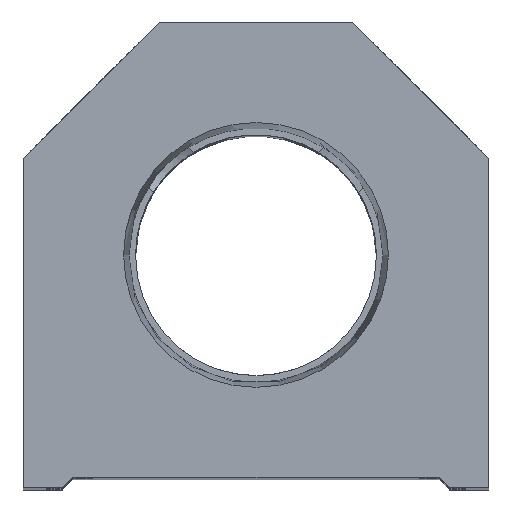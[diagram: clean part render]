
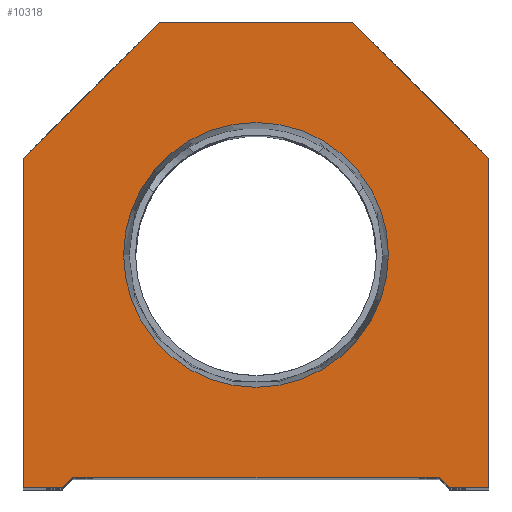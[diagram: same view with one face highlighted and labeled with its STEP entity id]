
A CAD part, top view. The second image highlights one B-rep face of the part: STEP entity #10318.
In plain terms, the highlighted planar face has unit normal (0, 0, 1).
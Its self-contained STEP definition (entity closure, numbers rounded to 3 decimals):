
#341 = DIRECTION ( 'NONE',  ( 1., 0., 0. ) ) ;
#595 = FACE_BOUND ( 'NONE', #12300, .T. ) ;
#606 = CARTESIAN_POINT ( 'NONE',  ( -22.25, 0., 0. ) ) ;
#615 = AXIS2_PLACEMENT_3D ( 'NONE', #9363, #10745, #8400 ) ;
#703 = VERTEX_POINT ( 'NONE', #14268 ) ;
#852 = CARTESIAN_POINT ( 'NONE',  ( -22.25, 31.5, 0. ) ) ;
#1109 = CARTESIAN_POINT ( 'NONE',  ( -17.5, 0., 0. ) ) ;
#1124 = VERTEX_POINT ( 'NONE', #1278 ) ;
#1189 = LINE ( 'NONE', #1109, #6483 ) ;
#1209 = ORIENTED_EDGE ( 'NONE', *, *, #7850, .T. ) ;
#1278 = CARTESIAN_POINT ( 'NONE',  ( -22.25, 0., 0. ) ) ;
#1451 = LINE ( 'NONE', #12721, #1650 ) ;
#1483 = CARTESIAN_POINT ( 'NONE',  ( 22.25, 0., 0. ) ) ;
#1518 = CARTESIAN_POINT ( 'NONE',  ( 17.5, 0., 0. ) ) ;
#1556 = DIRECTION ( 'NONE',  ( 1., 0., 0. ) ) ;
#1569 = EDGE_CURVE ( 'NONE', #10668, #703, #11191, .T. ) ;
#1650 = VECTOR ( 'NONE', #7331, 1000. ) ;
#1702 = CARTESIAN_POINT ( 'NONE',  ( 0., 22.25, 0. ) ) ;
#1937 = EDGE_CURVE ( 'NONE', #10751, #11956, #5445, .T. ) ;
#1974 = DIRECTION ( 'NONE',  ( -0.707, 0.707, 0. ) ) ;
#2422 = CARTESIAN_POINT ( 'NONE',  ( 18.5, 0., 0. ) ) ;
#2563 = DIRECTION ( 'NONE',  ( 0.707, 0.707, 0. ) ) ;
#2686 = VECTOR ( 'NONE', #9468, 1000. ) ;
#2759 = ORIENTED_EDGE ( 'NONE', *, *, #1569, .T. ) ;
#2771 = CARTESIAN_POINT ( 'NONE',  ( -17.5, 1., 0. ) ) ;
#2816 = DIRECTION ( 'NONE',  ( 0., 0., 1. ) ) ;
#2820 = VECTOR ( 'NONE', #341, 1000. ) ;
#2863 = EDGE_CURVE ( 'NONE', #9670, #10385, #6899, .T. ) ;
#3039 = CARTESIAN_POINT ( 'NONE',  ( 17.5, 1., 0. ) ) ;
#3234 = VECTOR ( 'NONE', #5608, 1000. ) ;
#3510 = ORIENTED_EDGE ( 'NONE', *, *, #13084, .T. ) ;
#3719 = VERTEX_POINT ( 'NONE', #9332 ) ;
#4142 = CIRCLE ( 'NONE', #4620, 12.647 ) ;
#4425 = CARTESIAN_POINT ( 'NONE',  ( 9.25, 44.5, 0. ) ) ;
#4620 = AXIS2_PLACEMENT_3D ( 'NONE', #1702, #2816, #1556 ) ;
#4866 = PLANE ( 'NONE',  #615 ) ;
#5067 = ORIENTED_EDGE ( 'NONE', *, *, #6592, .T. ) ;
#5076 = DIRECTION ( 'NONE',  ( 0., 1., 0. ) ) ;
#5387 = VECTOR ( 'NONE', #1974, 1000. ) ;
#5406 = VECTOR ( 'NONE', #5076, 1000. ) ;
#5445 = LINE ( 'NONE', #9936, #12905 ) ;
#5608 = DIRECTION ( 'NONE',  ( -1., 0., 0. ) ) ;
#5676 = DIRECTION ( 'NONE',  ( 1., 0., 0. ) ) ;
#5869 = CARTESIAN_POINT ( 'NONE',  ( -9.25, 9.25, 0. ) ) ;
#5929 = ORIENTED_EDGE ( 'NONE', *, *, #2863, .T. ) ;
#5996 = EDGE_CURVE ( 'NONE', #9671, #10471, #6550, .T. ) ;
#6042 = ORIENTED_EDGE ( 'NONE', *, *, #8292, .T. ) ;
#6116 = DIRECTION ( 'NONE',  ( 0., 0., 1. ) ) ;
#6182 = CARTESIAN_POINT ( 'NONE',  ( 0., 22.25, 0. ) ) ;
#6483 = VECTOR ( 'NONE', #5676, 1000. ) ;
#6550 = CIRCLE ( 'NONE', #8438, 12.647 ) ;
#6592 = EDGE_CURVE ( 'NONE', #11956, #13979, #8221, .T. ) ;
#6689 = CARTESIAN_POINT ( 'NONE',  ( -18.5, 0., 0. ) ) ;
#6899 = LINE ( 'NONE', #5869, #13386 ) ;
#7023 = CARTESIAN_POINT ( 'NONE',  ( 22.25, 0., 0. ) ) ;
#7094 = LINE ( 'NONE', #606, #12581 ) ;
#7150 = FACE_OUTER_BOUND ( 'NONE', #11612, .T. ) ;
#7302 = CARTESIAN_POINT ( 'NONE',  ( -17.5, 1., 0. ) ) ;
#7327 = EDGE_CURVE ( 'NONE', #703, #13302, #1451, .T. ) ;
#7331 = DIRECTION ( 'NONE',  ( -0.707, -0.707, 0. ) ) ;
#7850 = EDGE_CURVE ( 'NONE', #10385, #10751, #11534, .T. ) ;
#8221 = LINE ( 'NONE', #1518, #2820 ) ;
#8275 = DIRECTION ( 'NONE',  ( 0., -1., 0. ) ) ;
#8292 = EDGE_CURVE ( 'NONE', #13302, #1124, #7094, .T. ) ;
#8400 = DIRECTION ( 'NONE',  ( 1., 0., 0. ) ) ;
#8438 = AXIS2_PLACEMENT_3D ( 'NONE', #6182, #6116, #12972 ) ;
#8831 = CARTESIAN_POINT ( 'NONE',  ( 12.647, 22.25, 0. ) ) ;
#8835 = ORIENTED_EDGE ( 'NONE', *, *, #5996, .F. ) ;
#9048 = DIRECTION ( 'NONE',  ( 0.707, -0.707, 0. ) ) ;
#9284 = ORIENTED_EDGE ( 'NONE', *, *, #11727, .T. ) ;
#9332 = CARTESIAN_POINT ( 'NONE',  ( 22.25, 31.5, 0. ) ) ;
#9354 = LINE ( 'NONE', #1483, #5406 ) ;
#9363 = CARTESIAN_POINT ( 'NONE',  ( 0., 0., 0. ) ) ;
#9468 = DIRECTION ( 'NONE',  ( 1., 0., 0. ) ) ;
#9670 = VERTEX_POINT ( 'NONE', #6689 ) ;
#9671 = VERTEX_POINT ( 'NONE', #12295 ) ;
#9936 = CARTESIAN_POINT ( 'NONE',  ( 9.25, 9.25, 0. ) ) ;
#9978 = ORIENTED_EDGE ( 'NONE', *, *, #1937, .T. ) ;
#10318 = ADVANCED_FACE ( 'NONE', ( #595, #7150 ), #4866, .T. ) ;
#10371 = EDGE_CURVE ( 'NONE', #10471, #9671, #4142, .T. ) ;
#10385 = VERTEX_POINT ( 'NONE', #7302 ) ;
#10471 = VERTEX_POINT ( 'NONE', #8831 ) ;
#10668 = VERTEX_POINT ( 'NONE', #12521 ) ;
#10745 = DIRECTION ( 'NONE',  ( 0., 0., 1. ) ) ;
#10751 = VERTEX_POINT ( 'NONE', #3039 ) ;
#10794 = ORIENTED_EDGE ( 'NONE', *, *, #10371, .F. ) ;
#10862 = EDGE_CURVE ( 'NONE', #1124, #9670, #1189, .T. ) ;
#11191 = LINE ( 'NONE', #4425, #3234 ) ;
#11534 = LINE ( 'NONE', #2771, #2686 ) ;
#11612 = EDGE_LOOP ( 'NONE', ( #11678, #5929, #1209, #9978, #5067, #9284, #3510, #2759, #12886, #6042 ) ) ;
#11678 = ORIENTED_EDGE ( 'NONE', *, *, #10862, .T. ) ;
#11727 = EDGE_CURVE ( 'NONE', #13979, #3719, #9354, .T. ) ;
#11956 = VERTEX_POINT ( 'NONE', #2422 ) ;
#12061 = CARTESIAN_POINT ( 'NONE',  ( 22.25, 31.5, 0. ) ) ;
#12295 = CARTESIAN_POINT ( 'NONE',  ( -12.647, 22.25, 0. ) ) ;
#12300 = EDGE_LOOP ( 'NONE', ( #10794, #8835 ) ) ;
#12521 = CARTESIAN_POINT ( 'NONE',  ( 9.25, 44.5, 0. ) ) ;
#12581 = VECTOR ( 'NONE', #8275, 1000. ) ;
#12721 = CARTESIAN_POINT ( 'NONE',  ( -22.25, 31.5, 0. ) ) ;
#12886 = ORIENTED_EDGE ( 'NONE', *, *, #7327, .T. ) ;
#12905 = VECTOR ( 'NONE', #9048, 1000. ) ;
#12972 = DIRECTION ( 'NONE',  ( 1., 0., 0. ) ) ;
#13084 = EDGE_CURVE ( 'NONE', #3719, #10668, #13180, .T. ) ;
#13180 = LINE ( 'NONE', #12061, #5387 ) ;
#13302 = VERTEX_POINT ( 'NONE', #852 ) ;
#13386 = VECTOR ( 'NONE', #2563, 1000. ) ;
#13979 = VERTEX_POINT ( 'NONE', #7023 ) ;
#14268 = CARTESIAN_POINT ( 'NONE',  ( -9.25, 44.5, 0. ) ) ;
